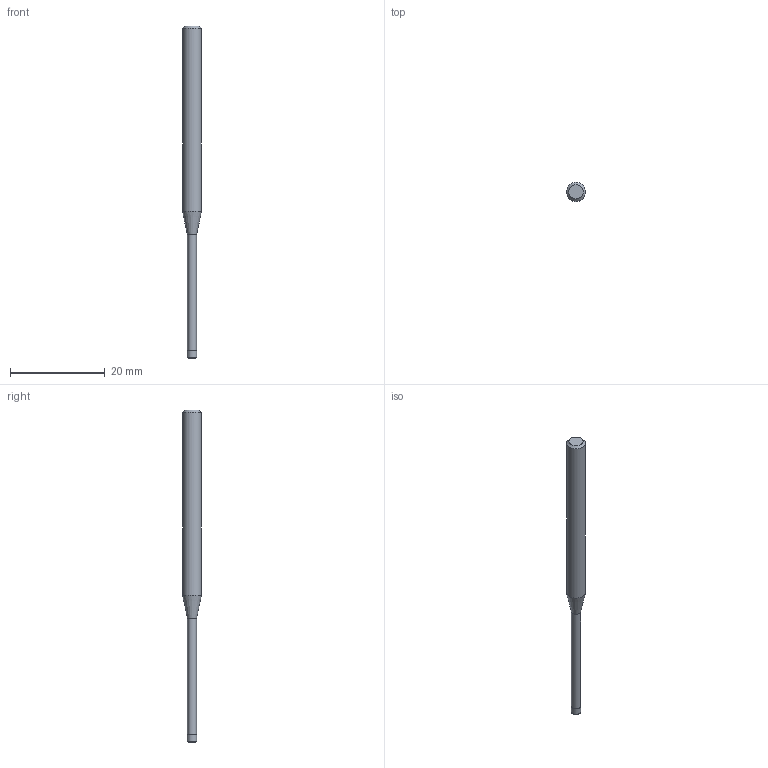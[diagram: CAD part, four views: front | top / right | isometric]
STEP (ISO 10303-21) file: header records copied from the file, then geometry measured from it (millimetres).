
FILE_DESCRIPTION((''),'2;1');
FILE_NAME('C:\Users\nsx150\AppData\Local\Temp\Mastercam 2021\17T8Q8S9EB\TEMP.step','2021-04-21T14:37:24',(''),(''),'STEP Write','Mastercam 2021 ... CNC Software, Inc.','');
FILE_SCHEMA(('AUTOMOTIVE_DESIGN'));
Length unit declared in the file: millimetre
Products named in the file (1): None
Bounding box: 4 x 4 x 70 mm (x, y, z)
Volume: 599.7 mm3; surface area: 711.4 mm2
Topology: 2 solids, 2 shells, 10 faces, 14 edges, 8 vertices
Faces by surface type: plane 4, cylinder 3, cone 2, torus 1
Full cylindrical faces by diameter (mm): 1.91 x1, 2 x1, 4 x1
Entity records: 232 total; most frequent: DIRECTION 40, CARTESIAN_POINT 28, AXIS2_PLACEMENT_3D 20, ORIENTED_EDGE 16, EDGE_LOOP 16, STYLED_ITEM 13, ADVANCED_FACE 10, FACE_BOUND 10
